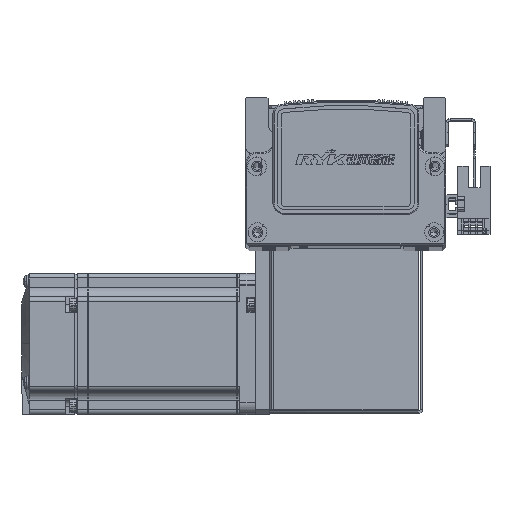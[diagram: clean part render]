
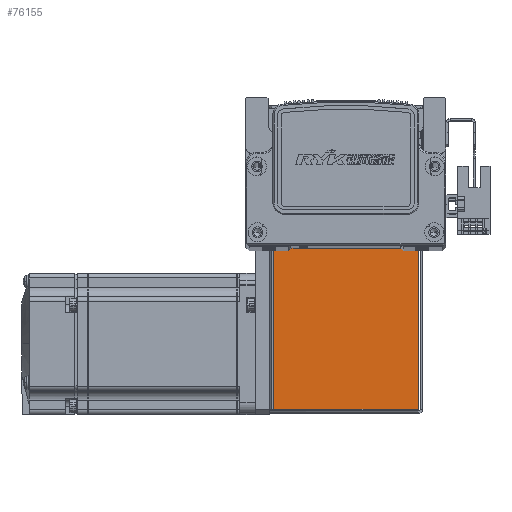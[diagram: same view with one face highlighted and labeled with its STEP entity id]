
A CAD part, top view. The second image highlights one B-rep face of the part: STEP entity #76155.
In plain terms, the highlighted planar face has unit normal (0, 0, 1) as drawn and (0, 0, -1) by its records, which use the part's own axes.
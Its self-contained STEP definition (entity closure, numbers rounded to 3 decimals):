
#667 = ORIENTED_EDGE ( 'NONE', *, *, #55643, .T. ) ;
#681 = ORIENTED_EDGE ( 'NONE', *, *, #55683, .T. ) ;
#692 = ORIENTED_EDGE ( 'NONE', *, *, #55752, .T. ) ;
#715 = ORIENTED_EDGE ( 'NONE', *, *, #55712, .F. ) ;
#3906 = CARTESIAN_POINT ( 'NONE',  ( -30.793, 0.737, -35. ) ) ;
#9097 = AXIS2_PLACEMENT_3D ( 'NONE', #58003, #57998, #58038 ) ;
#11648 = VERTEX_POINT ( 'NONE', #81942 ) ;
#13218 = EDGE_LOOP ( 'NONE', ( #681, #715, #692, #667 ) ) ;
#17852 = VERTEX_POINT ( 'NONE', #3906 ) ;
#17896 = VERTEX_POINT ( 'NONE', #82678 ) ;
#17913 = VERTEX_POINT ( 'NONE', #82687 ) ;
#20759 = DIRECTION ( 'NONE',  ( 1., 0., 0. ) ) ;
#20770 = CARTESIAN_POINT ( 'NONE',  ( 32.5, 0.737, -35. ) ) ;
#21359 = CARTESIAN_POINT ( 'NONE',  ( 0., 72.5, -35. ) ) ;
#21374 = DIRECTION ( 'NONE',  ( 0., -1., 0. ) ) ;
#21395 = DIRECTION ( 'NONE',  ( 1., 0., 0. ) ) ;
#21409 = CARTESIAN_POINT ( 'NONE',  ( 30.763, 72.5, -35. ) ) ;
#29669 = VECTOR ( 'NONE', #21374, 1000. ) ;
#29697 = LINE ( 'NONE', #21409, #29669 ) ;
#29733 = LINE ( 'NONE', #21359, #29735 ) ;
#29735 = VECTOR ( 'NONE', #21395, 1000. ) ;
#29847 = LINE ( 'NONE', #20770, #29849 ) ;
#29849 = VECTOR ( 'NONE', #20759, 1000. ) ;
#29929 = LINE ( 'NONE', #67131, #29953 ) ;
#29953 = VECTOR ( 'NONE', #67160, 1000. ) ;
#55643 = EDGE_CURVE ( 'NONE', #11648, #17913, #29733, .T. ) ;
#55683 = EDGE_CURVE ( 'NONE', #17913, #17896, #29697, .T. ) ;
#55712 = EDGE_CURVE ( 'NONE', #17852, #17896, #29847, .T. ) ;
#55752 = EDGE_CURVE ( 'NONE', #17852, #11648, #29929, .T. ) ;
#57998 = DIRECTION ( 'NONE',  ( 0., 0., 1. ) ) ;
#58002 = PLANE ( 'NONE',  #9097 ) ;
#58003 = CARTESIAN_POINT ( 'NONE',  ( 0., 0., -35. ) ) ;
#58038 = DIRECTION ( 'NONE',  ( 0., -1., 0. ) ) ;
#67131 = CARTESIAN_POINT ( 'NONE',  ( -30.793, 0., -35. ) ) ;
#67160 = DIRECTION ( 'NONE',  ( 0., 1., 0. ) ) ;
#69703 = FACE_OUTER_BOUND ( 'NONE', #13218, .T. ) ;
#76155 = ADVANCED_FACE ( 'NONE', ( #69703 ), #58002, .F. ) ;
#81942 = CARTESIAN_POINT ( 'NONE',  ( -30.793, 72.5, -35. ) ) ;
#82678 = CARTESIAN_POINT ( 'NONE',  ( 30.763, 0.737, -35. ) ) ;
#82687 = CARTESIAN_POINT ( 'NONE',  ( 30.763, 72.5, -35. ) ) ;
